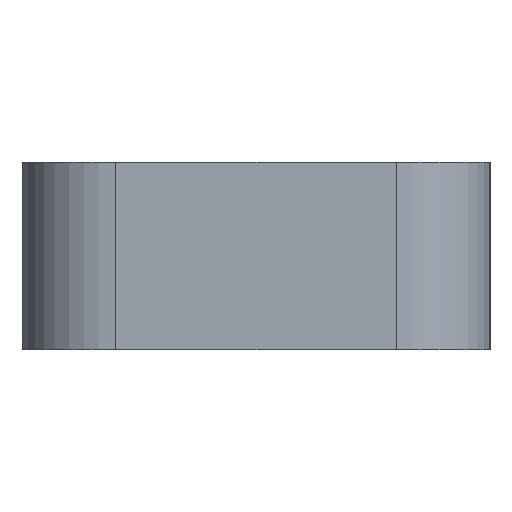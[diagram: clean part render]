
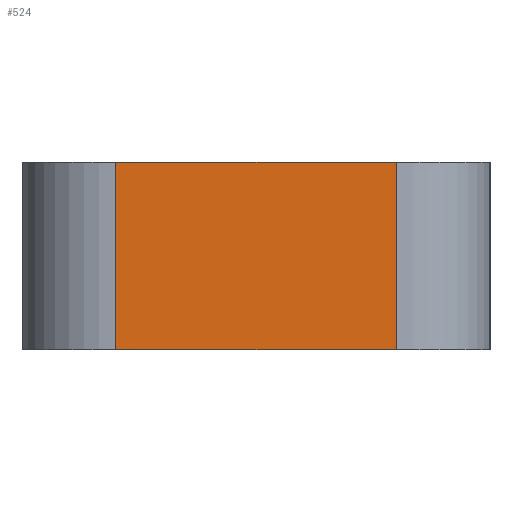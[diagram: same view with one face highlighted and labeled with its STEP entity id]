
A CAD part, left-side view. The second image highlights one B-rep face of the part: STEP entity #524.
In plain terms, the highlighted planar face has unit normal (-1, 0, 0).
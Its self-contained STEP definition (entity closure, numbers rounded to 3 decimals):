
#22 = VERTEX_POINT('',#23);
#23 = CARTESIAN_POINT('',(0.,2.,4.));
#32 = EDGE_CURVE('',#33,#22,#35,.T.);
#33 = VERTEX_POINT('',#34);
#34 = CARTESIAN_POINT('',(0.,2.,0.));
#35 = LINE('',#36,#37);
#36 = CARTESIAN_POINT('',(0.,2.,0.));
#37 = VECTOR('',#38,1.);
#38 = DIRECTION('',(0.,0.,1.));
#107 = VERTEX_POINT('',#108);
#108 = CARTESIAN_POINT('',(0.,8.,4.));
#115 = EDGE_CURVE('',#22,#107,#116,.T.);
#116 = LINE('',#117,#118);
#117 = CARTESIAN_POINT('',(0.,2.,4.));
#118 = VECTOR('',#119,1.);
#119 = DIRECTION('',(-0.,1.,0.));
#312 = EDGE_CURVE('',#33,#313,#315,.T.);
#313 = VERTEX_POINT('',#314);
#314 = CARTESIAN_POINT('',(0.,8.,0.));
#315 = LINE('',#316,#317);
#316 = CARTESIAN_POINT('',(0.,2.,0.));
#317 = VECTOR('',#318,1.);
#318 = DIRECTION('',(-0.,1.,0.));
#524 = ADVANCED_FACE('',(#525),#536,.F.);
#525 = FACE_BOUND('',#526,.F.);
#526 = EDGE_LOOP('',(#527,#528,#529,#535));
#527 = ORIENTED_EDGE('',*,*,#32,.F.);
#528 = ORIENTED_EDGE('',*,*,#312,.T.);
#529 = ORIENTED_EDGE('',*,*,#530,.T.);
#530 = EDGE_CURVE('',#313,#107,#531,.T.);
#531 = LINE('',#532,#533);
#532 = CARTESIAN_POINT('',(0.,8.,0.));
#533 = VECTOR('',#534,1.);
#534 = DIRECTION('',(0.,0.,1.));
#535 = ORIENTED_EDGE('',*,*,#115,.F.);
#536 = PLANE('',#537);
#537 = AXIS2_PLACEMENT_3D('',#538,#539,#540);
#538 = CARTESIAN_POINT('',(0.,2.,0.));
#539 = DIRECTION('',(1.,0.,-0.));
#540 = DIRECTION('',(0.,0.,1.));
